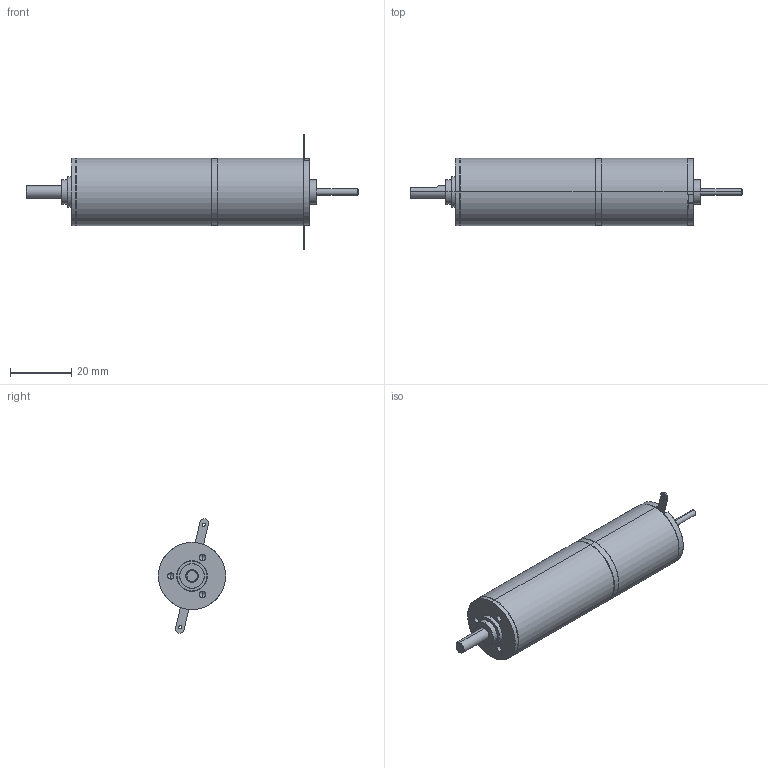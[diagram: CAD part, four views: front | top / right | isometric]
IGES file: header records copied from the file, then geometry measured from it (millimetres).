
Start section: SolidWorks IGES file using analytic representation for surfaces
Global section: file name: \\Uranus\R&D\plans\CATALOGUES\Topstock_Piece_IGES\AMax22CLL_+_GP022C 4etages.IGS; native system: SolidWorks 2008; preprocessor: SolidWorks 2008; author: JUL; date: 090325.183551; units: millimetre
Bounding box: 108.75 x 22 x 37.64 mm (x, y, z)
Surface area: 8442.3 mm2 (no closed solid volume)
Topology: 0 solids, 0 shells, 147 faces, 1709 edges, 1683 vertices
Faces by surface type: revolution 106, bspline 41
